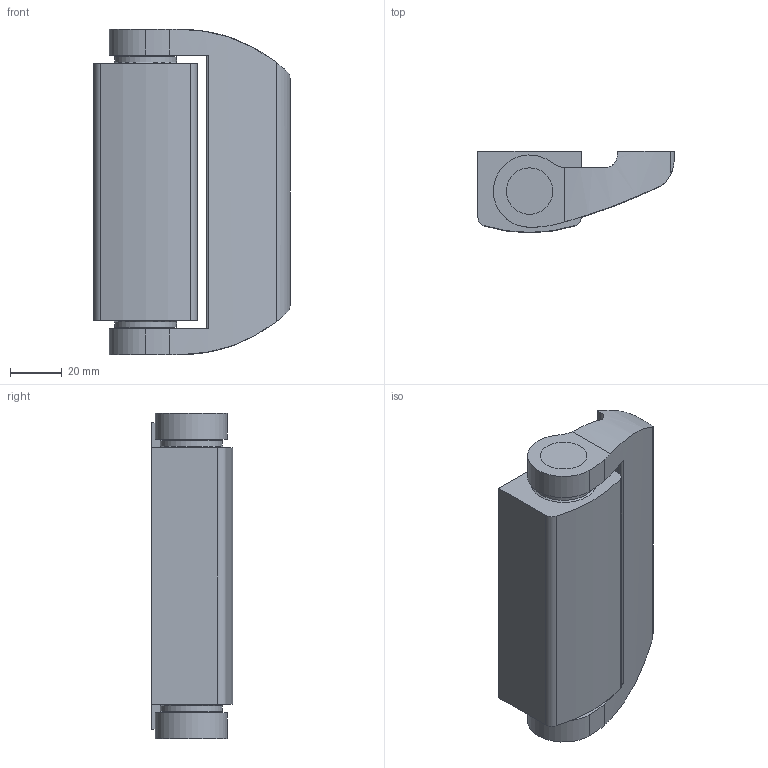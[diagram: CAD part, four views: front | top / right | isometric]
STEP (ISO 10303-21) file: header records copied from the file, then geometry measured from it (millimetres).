
FILE_DESCRIPTION( ( 'STEP AP203' ), '1' );
FILE_NAME( 'C:/Temp/Ganter_Step_05_03_2020/data/3_3/gn139_6/Hinge with safety switch GN 139.6-76-126(0).stp', '2020-03-12T11:39:37', ( 'License CC BY-ND 4.0' ), ( 'CADENAS' ), ' ', 'PARTsolutions', ' ' );
FILE_SCHEMA( ( 'CONFIG_CONTROL_DESIGN' ) );
Length unit declared in the file: millimetre
Products named in the file (3): Hinge with safety switch GN 139.6-76-126(0); _Hinge with safety switch GN 139.6-76-126(0)_1; _Hinge with safety switch GN 139.6-76-126(0)_2
Assembly tree (2 placements, depth 2):
  Hinge with safety switch GN 139.6-76-126(0)
    _Hinge with safety switch GN 139.6-76-126(0)_1
    _Hinge with safety switch GN 139.6-76-126(0)_2
Bounding box: 76 x 31.5 x 126 mm (x, y, z)
Volume: 182066.4 mm3; surface area: 36183.4 mm2
Topology: 2 solids, 2 shells, 68 faces, 179 edges, 119 vertices
Faces by surface type: cylinder 36, plane 20, cone 12
Full cylindrical faces by diameter (mm): 4.917 x10, 18 x4, 24 x2
Entity records: 2034 total; most frequent: CARTESIAN_POINT 411, DIRECTION 332, ORIENTED_EDGE 260, AXIS2_PLACEMENT_3D 141, EDGE_CURVE 130, VERTEX_POINT 108, EDGE_LOOP 104, FACE_OUTER_BOUND 84
